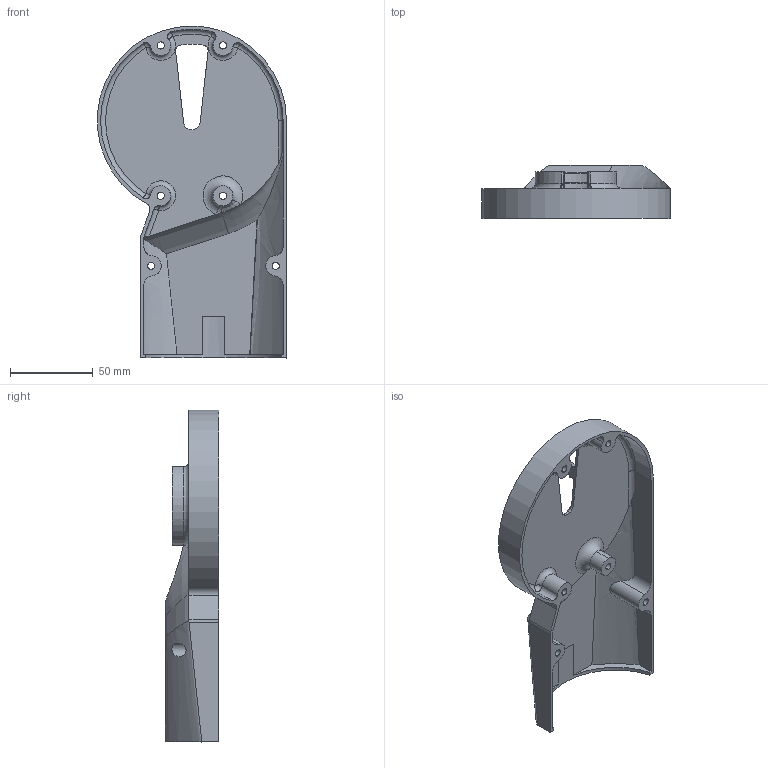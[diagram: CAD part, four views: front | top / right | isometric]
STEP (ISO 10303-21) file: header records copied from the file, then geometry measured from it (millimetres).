
FILE_DESCRIPTION((''),'2;1');
FILE_NAME('KD-C-202L_UPBICEPIDLE_1','2025-07-12T13:19:32',('Administrator'),(''),'CREO PARAMETRIC BY PTC INC, 2022073','CREO PARAMETRIC BY PTC INC, 2022073','');
FILE_SCHEMA(('CONFIG_CONTROL_DESIGN'));
Length unit declared in the file: millimetre
Products named in the file (1): KD-C-202L_UPBICEPIDLE_1
Bounding box: 113.82 x 32.25 x 200 mm (x, y, z)
Volume: 71505.8 mm3; surface area: 61303.9 mm2
Topology: 1 solids, 1 shells, 145 faces, 430 edges, 285 vertices
Faces by surface type: cylinder 64, plane 33, cone 16, torus 14, bspline 8, sphere 6, extrusion 2, revolution 2
Entity records: 6043 total; most frequent: CARTESIAN_POINT 2065, DIRECTION 844, ORIENTED_EDGE 844, EDGE_CURVE 422, AXIS2_PLACEMENT_3D 349, VERTEX_POINT 285, CIRCLE 216, EDGE_LOOP 165
